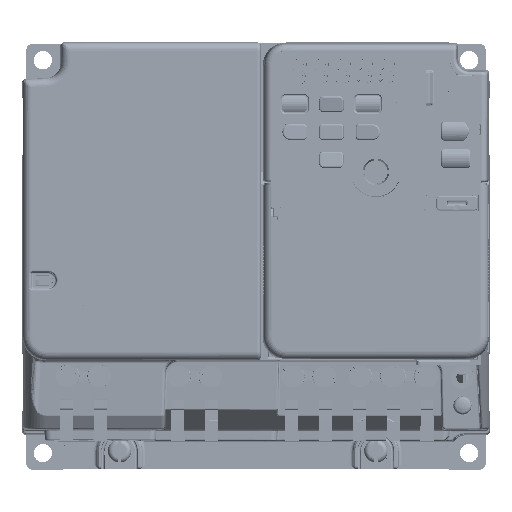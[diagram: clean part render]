
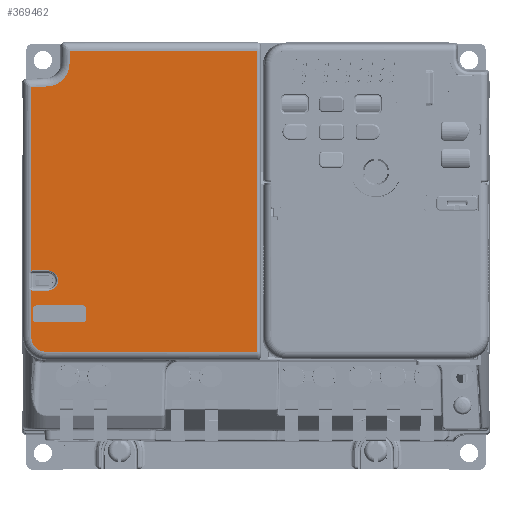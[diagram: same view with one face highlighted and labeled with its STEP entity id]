
A CAD part, top view. The second image highlights one B-rep face of the part: STEP entity #369462.
In plain terms, the highlighted planar face has unit normal (0, 0, 1).
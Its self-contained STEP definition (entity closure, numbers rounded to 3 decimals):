
#297312=CARTESIAN_POINT('',(-56.,125.5,
127.8));
#297314=DIRECTION('',(0.,-1.,0.));
#297315=VECTOR('',#297314,3.73);
#297316=CARTESIAN_POINT('',(-56.,125.5,
127.8));
#297317=LINE('',#297316,#297315);
#297340=DIRECTION('',(-1.,0.,0.));
#297341=VECTOR('',#297340,56.378);
#297342=CARTESIAN_POINT('',(0.378,125.5,
127.8));
#297343=LINE('',#297342,#297341);
#297344=CARTESIAN_POINT('',(0.378,125.5,
127.8));
#299497=CARTESIAN_POINT('',(-63.,39.6,127.8));
#299498=DIRECTION('',(0.,0.,-1.));
#299499=DIRECTION('',(0.,-1.,0.));
#299500=AXIS2_PLACEMENT_3D('',#299497,#299498,#299499);
#299502=CARTESIAN_POINT('',(-62.5,56.5,127.8));
#299503=DIRECTION('',(0.,0.,1.));
#299504=DIRECTION('',(0.,-1.,0.));
#299505=AXIS2_PLACEMENT_3D('',#299502,#299503,#299504);
#299507=DIRECTION('',(0.999,0.052,0.));
#299508=VECTOR('',#299507,4.873);
#299509=CARTESIAN_POINT('',(-67.5,114.525,127.8));
#299510=LINE('',#299509,#299508);
#299511=CARTESIAN_POINT('',(-63.,121.77,127.8));
#299512=DIRECTION('',(0.,0.,1.));
#299513=DIRECTION('',(0.052,-0.999,0.));
#299514=AXIS2_PLACEMENT_3D('',#299511,#299512,#299513);
#299516=DIRECTION('',(0.,-1.,0.));
#299517=VECTOR('',#299516,3.);
#299518=CARTESIAN_POINT('',(-67.,48.,127.8));
#299519=LINE('',#299518,#299517);
#299520=CARTESIAN_POINT('',(-66.,45.,127.8));
#299521=DIRECTION('',(0.,0.,1.));
#299522=DIRECTION('',(-1.,0.,0.));
#299523=AXIS2_PLACEMENT_3D('',#299520,#299521,#299522);
#299525=DIRECTION('',(1.,0.,0.));
#299526=VECTOR('',#299525,14.);
#299527=CARTESIAN_POINT('',(-66.,44.,127.8));
#299528=LINE('',#299527,#299526);
#299529=CARTESIAN_POINT('',(-52.,45.,127.8));
#299530=DIRECTION('',(0.,0.,1.));
#299531=DIRECTION('',(0.,-1.,0.));
#299532=AXIS2_PLACEMENT_3D('',#299529,#299530,#299531);
#299534=DIRECTION('',(0.,1.,0.));
#299535=VECTOR('',#299534,3.);
#299536=CARTESIAN_POINT('',(-51.,45.,127.8));
#299537=LINE('',#299536,#299535);
#299538=CARTESIAN_POINT('',(-52.,48.,127.8));
#299539=DIRECTION('',(0.,0.,1.));
#299540=DIRECTION('',(1.,0.,0.));
#299541=AXIS2_PLACEMENT_3D('',#299538,#299539,#299540);
#299543=DIRECTION('',(-1.,0.,0.));
#299544=VECTOR('',#299543,14.);
#299545=CARTESIAN_POINT('',(-52.,49.,127.8));
#299546=LINE('',#299545,#299544);
#299547=CARTESIAN_POINT('',(-66.,48.,127.8));
#299548=DIRECTION('',(0.,0.,1.));
#299549=DIRECTION('',(0.,1.,0.));
#299550=AXIS2_PLACEMENT_3D('',#299547,#299548,#299549);
#299552=DIRECTION('',(0.,1.,0.));
#299553=VECTOR('',#299552,90.4);
#299554=CARTESIAN_POINT('',(0.378,35.1,
127.8));
#299555=LINE('',#299554,#299553);
#299578=DIRECTION('',(1.,0.,0.));
#299579=VECTOR('',#299578,63.378);
#299580=CARTESIAN_POINT('',(-63.,35.1,127.8));
#299581=LINE('',#299580,#299579);
#325086=DIRECTION('',(-1.,0.,0.));
#325087=VECTOR('',#325086,4.531);
#325088=CARTESIAN_POINT('',(-62.5,53.469,127.8));
#325089=LINE('',#325088,#325087);
#325115=DIRECTION('',(1.,0.,0.));
#325116=VECTOR('',#325115,4.531);
#325117=CARTESIAN_POINT('',(-67.031,59.531,
127.8));
#325118=LINE('',#325117,#325116);
#325123=CARTESIAN_POINT('',(-67.5,59.414,127.8));
#325124=CARTESIAN_POINT('',(-67.452,59.439,
127.8));
#325125=CARTESIAN_POINT('',(-67.353,59.482,
127.8));
#325126=CARTESIAN_POINT('',(-67.194,59.522,
127.8));
#325127=CARTESIAN_POINT('',(-67.086,59.531,
127.8));
#325128=CARTESIAN_POINT('',(-67.031,59.531,
127.8));
#325180=CARTESIAN_POINT('',(-67.031,53.469,
127.8));
#325181=CARTESIAN_POINT('',(-67.086,53.469,
127.8));
#325182=CARTESIAN_POINT('',(-67.194,53.478,
127.8));
#325183=CARTESIAN_POINT('',(-67.353,53.518,
127.8));
#325184=CARTESIAN_POINT('',(-67.452,53.561,
127.8));
#325185=CARTESIAN_POINT('',(-67.5,53.586,
127.8));
#325221=DIRECTION('',(0.,-1.,0.));
#325222=VECTOR('',#325221,55.111);
#325223=CARTESIAN_POINT('',(-67.5,114.525,127.8));
#325224=LINE('',#325223,#325222);
#325233=DIRECTION('',(0.,-1.,0.));
#325234=VECTOR('',#325233,13.986);
#325235=CARTESIAN_POINT('',(-67.5,53.586,
127.8));
#325236=LINE('',#325235,#325234);
#348200=VERTEX_POINT('',#297312);
#348201=CARTESIAN_POINT('',(-56.,121.77,127.8));
#348202=VERTEX_POINT('',#348201);
#348203=VERTEX_POINT('',#297344);
#348942=CARTESIAN_POINT('',(-62.634,114.78,127.8));
#348943=VERTEX_POINT('',#348942);
#348944=CARTESIAN_POINT('',(0.378,35.1,
127.8));
#348945=VERTEX_POINT('',#348944);
#348946=CARTESIAN_POINT('',(-63.,35.1,127.8));
#348947=VERTEX_POINT('',#348946);
#348948=CARTESIAN_POINT('',(-67.5,39.6,127.8));
#348949=VERTEX_POINT('',#348948);
#348950=CARTESIAN_POINT('',(-67.5,53.586,
127.8));
#348951=VERTEX_POINT('',#348950);
#348952=VERTEX_POINT('',#325180);
#348953=CARTESIAN_POINT('',(-62.5,53.469,127.8));
#348954=VERTEX_POINT('',#348953);
#348955=CARTESIAN_POINT('',(-62.5,59.531,127.8));
#348956=VERTEX_POINT('',#348955);
#348957=CARTESIAN_POINT('',(-67.031,59.531,
127.8));
#348958=VERTEX_POINT('',#348957);
#348959=VERTEX_POINT('',#325123);
#348960=CARTESIAN_POINT('',(-67.5,114.525,127.8));
#348961=VERTEX_POINT('',#348960);
#348962=CARTESIAN_POINT('',(-67.,48.,127.8));
#348963=CARTESIAN_POINT('',(-67.,45.,127.8));
#348964=VERTEX_POINT('',#348962);
#348965=VERTEX_POINT('',#348963);
#348966=CARTESIAN_POINT('',(-66.,44.,127.8));
#348967=VERTEX_POINT('',#348966);
#348968=CARTESIAN_POINT('',(-52.,44.,127.8));
#348969=VERTEX_POINT('',#348968);
#348970=CARTESIAN_POINT('',(-51.,45.,127.8));
#348971=VERTEX_POINT('',#348970);
#348972=CARTESIAN_POINT('',(-51.,48.,127.8));
#348973=VERTEX_POINT('',#348972);
#348974=CARTESIAN_POINT('',(-52.,49.,127.8));
#348975=VERTEX_POINT('',#348974);
#348976=CARTESIAN_POINT('',(-66.,49.,127.8));
#348977=VERTEX_POINT('',#348976);
#369412=CARTESIAN_POINT('',(0.,0.,127.8));
#369413=DIRECTION('',(0.,0.,1.));
#369414=DIRECTION('',(1.,0.,0.));
#369415=AXIS2_PLACEMENT_3D('',#369412,#369413,#369414);
#369416=PLANE('',#369415);
#369417=ORIENTED_EDGE('',*,*,#366928,.F.);
#369418=ORIENTED_EDGE('',*,*,#367005,.F.);
#369420=ORIENTED_EDGE('',*,*,#369419,.F.);
#369422=ORIENTED_EDGE('',*,*,#369421,.F.);
#369424=ORIENTED_EDGE('',*,*,#369423,.T.);
#369426=ORIENTED_EDGE('',*,*,#369425,.F.);
#369428=ORIENTED_EDGE('',*,*,#369427,.F.);
#369430=ORIENTED_EDGE('',*,*,#369429,.F.);
#369432=ORIENTED_EDGE('',*,*,#369431,.T.);
#369434=ORIENTED_EDGE('',*,*,#369433,.F.);
#369436=ORIENTED_EDGE('',*,*,#369435,.F.);
#369438=ORIENTED_EDGE('',*,*,#369437,.F.);
#369440=ORIENTED_EDGE('',*,*,#369439,.T.);
#369441=ORIENTED_EDGE('',*,*,#369404,.T.);
#369442=EDGE_LOOP('',(#369417,#369418,#369420,#369422,#369424,#369426,#369428,
#369430,#369432,#369434,#369436,#369438,#369440,#369441));
#369443=FACE_OUTER_BOUND('',#369442,.F.);
#369445=ORIENTED_EDGE('',*,*,#369444,.T.);
#369447=ORIENTED_EDGE('',*,*,#369446,.T.);
#369449=ORIENTED_EDGE('',*,*,#369448,.T.);
#369451=ORIENTED_EDGE('',*,*,#369450,.T.);
#369453=ORIENTED_EDGE('',*,*,#369452,.T.);
#369455=ORIENTED_EDGE('',*,*,#369454,.T.);
#369457=ORIENTED_EDGE('',*,*,#369456,.T.);
#369459=ORIENTED_EDGE('',*,*,#369458,.T.);
#369460=EDGE_LOOP('',(#369445,#369447,#369449,#369451,#369453,#369455,#369457,
#369459));
#369461=FACE_BOUND('',#369460,.F.);
#369462=ADVANCED_FACE('',(#369443,#369461),#369416,.T.);
#299501=CIRCLE('',#299500,4.5);
#299506=CIRCLE('',#299505,3.031);
#299515=CIRCLE('',#299514,7.);
#299524=CIRCLE('',#299523,1.);
#299533=CIRCLE('',#299532,1.);
#299542=CIRCLE('',#299541,1.);
#299551=CIRCLE('',#299550,1.);
#325129=B_SPLINE_CURVE_WITH_KNOTS('',3,(#325123,#325124,#325125,#325126,#325127,
#325128),.UNSPECIFIED.,.F.,.F.,(4,1,1,4),(0.,0.333,
0.667,1.),.UNSPECIFIED.);
#325186=B_SPLINE_CURVE_WITH_KNOTS('',3,(#325180,#325181,#325182,#325183,#325184,
#325185),.UNSPECIFIED.,.F.,.F.,(4,1,1,4),(0.,0.333,
0.667,1.),.UNSPECIFIED.);
#366928=EDGE_CURVE('',#348200,#348202,#297317,.T.);
#367005=EDGE_CURVE('',#348203,#348200,#297343,.T.);
#369404=EDGE_CURVE('',#348943,#348202,#299515,.T.);
#369419=EDGE_CURVE('',#348945,#348203,#299555,.T.);
#369421=EDGE_CURVE('',#348947,#348945,#299581,.T.);
#369423=EDGE_CURVE('',#348947,#348949,#299501,.T.);
#369425=EDGE_CURVE('',#348951,#348949,#325236,.T.);
#369427=EDGE_CURVE('',#348952,#348951,#325186,.T.);
#369429=EDGE_CURVE('',#348954,#348952,#325089,.T.);
#369431=EDGE_CURVE('',#348954,#348956,#299506,.T.);
#369433=EDGE_CURVE('',#348958,#348956,#325118,.T.);
#369435=EDGE_CURVE('',#348959,#348958,#325129,.T.);
#369437=EDGE_CURVE('',#348961,#348959,#325224,.T.);
#369439=EDGE_CURVE('',#348961,#348943,#299510,.T.);
#369444=EDGE_CURVE('',#348964,#348965,#299519,.T.);
#369446=EDGE_CURVE('',#348965,#348967,#299524,.T.);
#369448=EDGE_CURVE('',#348967,#348969,#299528,.T.);
#369450=EDGE_CURVE('',#348969,#348971,#299533,.T.);
#369452=EDGE_CURVE('',#348971,#348973,#299537,.T.);
#369454=EDGE_CURVE('',#348973,#348975,#299542,.T.);
#369456=EDGE_CURVE('',#348975,#348977,#299546,.T.);
#369458=EDGE_CURVE('',#348977,#348964,#299551,.T.);
